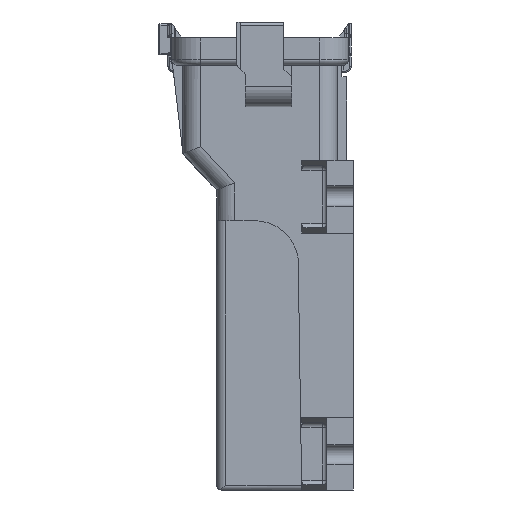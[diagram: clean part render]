
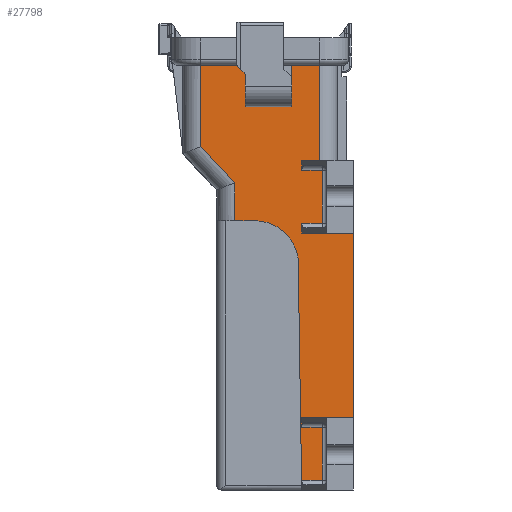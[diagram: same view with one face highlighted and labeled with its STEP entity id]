
A CAD part, left-side view. The second image highlights one B-rep face of the part: STEP entity #27798.
In plain terms, the highlighted planar face has unit normal (-1, 0, 0).
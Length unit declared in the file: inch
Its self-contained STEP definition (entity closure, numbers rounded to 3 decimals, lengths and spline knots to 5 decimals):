
#2=DIRECTION('',(0.,-1.,0.));
#3=VECTOR('',#2,0.405);
#4=CARTESIAN_POINT('',(-2.455,1.55,1.));
#5=LINE('',#4,#3);
#6=DIRECTION('',(0.,0.707,0.707));
#7=VECTOR('',#6,0.14142);
#8=CARTESIAN_POINT('',(-2.455,1.045,0.9));
#9=LINE('',#8,#7);
#10=DIRECTION('',(0.,0.,1.));
#11=VECTOR('',#10,0.37);
#12=CARTESIAN_POINT('',(-2.455,1.045,0.53));
#13=LINE('',#12,#11);
#14=DIRECTION('',(0.,1.,0.));
#15=VECTOR('',#14,0.525);
#16=CARTESIAN_POINT('',(-2.455,0.52,0.53));
#17=LINE('',#16,#15);
#18=DIRECTION('',(0.,0.,-1.));
#19=VECTOR('',#18,0.47);
#20=CARTESIAN_POINT('',(-2.455,0.52,1.));
#21=LINE('',#20,#19);
#22=DIRECTION('',(0.,-1.,0.));
#23=VECTOR('',#22,0.32);
#24=CARTESIAN_POINT('',(-2.455,0.52,1.));
#25=LINE('',#24,#23);
#26=DIRECTION('',(0.,1.,0.));
#27=VECTOR('',#26,0.205);
#28=CARTESIAN_POINT('',(-2.455,0.2,-0.08));
#29=LINE('',#28,#27);
#30=DIRECTION('',(0.,1.,0.));
#31=VECTOR('',#30,0.585);
#32=CARTESIAN_POINT('',(-2.455,-0.18,-0.9));
#33=LINE('',#32,#31);
#34=DIRECTION('',(0.,1.,0.));
#35=VECTOR('',#34,0.585);
#36=CARTESIAN_POINT('',(-2.455,-0.18,-2.99));
#37=LINE('',#36,#35);
#38=DIRECTION('',(0.,-0.015,-1.));
#39=VECTOR('',#38,2.6259);
#40=CARTESIAN_POINT('',(-2.455,0.445,-1.1844));
#41=LINE('',#40,#39);
#42=CARTESIAN_POINT('',(-2.455,0.93925,-1.26));
#43=DIRECTION('',(1.,0.,0.));
#44=DIRECTION('',(0.,0.,1.));
#45=AXIS2_PLACEMENT_3D('',#42,#43,#44);
#47=DIRECTION('',(0.,-1.,0.));
#48=VECTOR('',#47,0.22575);
#49=CARTESIAN_POINT('',(-2.455,1.165,-0.76));
#50=LINE('',#49,#48);
#12629=DIRECTION('',(0.,0.,-1.));
#12630=VECTOR('',#12629,0.92082);
#12631=CARTESIAN_POINT('',(-2.455,1.55,1.));
#12632=LINE('',#12631,#12630);
#12650=DIRECTION('',(0.,-0.685,-0.729));
#12651=VECTOR('',#12650,0.56243);
#12652=CARTESIAN_POINT('',(-2.455,1.55,0.07918));
#12653=LINE('',#12652,#12651);
#15592=DIRECTION('',(0.,0.,-1.));
#15593=VECTOR('',#15592,0.42918);
#15594=CARTESIAN_POINT('',(-2.455,1.165,-0.33082));
#15595=LINE('',#15594,#15593);
#20188=DIRECTION('',(0.,0.,-1.));
#20189=VECTOR('',#20188,2.09);
#20190=CARTESIAN_POINT('',(-2.455,-0.18,-0.9));
#20191=LINE('',#20190,#20189);
#20432=DIRECTION('',(0.,0.,1.));
#20433=VECTOR('',#20432,0.11);
#20434=CARTESIAN_POINT('',(-2.455,0.405,-0.19));
#20435=LINE('',#20434,#20433);
#20449=DIRECTION('',(0.,-1.,0.));
#20450=VECTOR('',#20449,0.235);
#20451=CARTESIAN_POINT('',(-2.455,0.405,-0.19));
#20452=LINE('',#20451,#20450);
#20470=DIRECTION('',(0.,0.,-1.));
#20471=VECTOR('',#20470,0.6);
#20472=CARTESIAN_POINT('',(-2.455,0.17,-0.19));
#20473=LINE('',#20472,#20471);
#20568=DIRECTION('',(0.,0.,1.));
#20569=VECTOR('',#20568,0.11);
#20570=CARTESIAN_POINT('',(-2.455,0.405,-0.9));
#20571=LINE('',#20570,#20569);
#20609=DIRECTION('',(0.,1.,0.));
#20610=VECTOR('',#20609,0.235);
#20611=CARTESIAN_POINT('',(-2.455,0.17,-0.79));
#20612=LINE('',#20611,#20610);
#20791=DIRECTION('',(0.,0.,1.));
#20792=VECTOR('',#20791,0.11);
#20793=CARTESIAN_POINT('',(-2.455,0.405,-3.81));
#20794=LINE('',#20793,#20792);
#20799=DIRECTION('',(0.,1.,0.));
#20800=VECTOR('',#20799,0.235);
#20801=CARTESIAN_POINT('',(-2.455,0.17,-3.7));
#20802=LINE('',#20801,#20800);
#20820=DIRECTION('',(0.,0.,-1.));
#20821=VECTOR('',#20820,0.6);
#20822=CARTESIAN_POINT('',(-2.455,0.17,-3.1));
#20823=LINE('',#20822,#20821);
#20847=DIRECTION('',(0.,-1.,0.));
#20848=VECTOR('',#20847,0.235);
#20849=CARTESIAN_POINT('',(-2.455,0.405,-3.1));
#20850=LINE('',#20849,#20848);
#20859=DIRECTION('',(0.,0.,1.));
#20860=VECTOR('',#20859,0.11);
#20861=CARTESIAN_POINT('',(-2.455,0.405,-3.1));
#20862=LINE('',#20861,#20860);
#22649=DIRECTION('',(0.,0.,1.));
#22650=VECTOR('',#22649,1.08);
#22651=CARTESIAN_POINT('',(-2.455,0.2,-0.08));
#22652=LINE('',#22651,#22650);
#22972=CARTESIAN_POINT('',(-2.455,0.93925,-0.76));
#22973=CARTESIAN_POINT('',(-2.455,0.445,-1.1844));
#22974=VERTEX_POINT('',#22972);
#22975=VERTEX_POINT('',#22973);
#23010=CARTESIAN_POINT('',(-2.455,1.165,-0.33082));
#23011=CARTESIAN_POINT('',(-2.455,1.165,-0.76));
#23012=VERTEX_POINT('',#23010);
#23013=VERTEX_POINT('',#23011);
#23014=CARTESIAN_POINT('',(-2.455,1.55,0.07918));
#23015=VERTEX_POINT('',#23014);
#23200=CARTESIAN_POINT('',(-2.455,0.2,1.));
#23202=VERTEX_POINT('',#23200);
#23208=CARTESIAN_POINT('',(-2.455,1.55,1.));
#23209=VERTEX_POINT('',#23208);
#23296=CARTESIAN_POINT('',(-2.455,0.52,1.));
#23297=CARTESIAN_POINT('',(-2.455,0.52,0.53));
#23298=VERTEX_POINT('',#23296);
#23299=VERTEX_POINT('',#23297);
#24009=CARTESIAN_POINT('',(-2.455,0.17,-0.79));
#24010=CARTESIAN_POINT('',(-2.455,0.405,-0.79));
#24011=VERTEX_POINT('',#24009);
#24012=VERTEX_POINT('',#24010);
#24025=CARTESIAN_POINT('',(-2.455,0.17,-0.19));
#24026=VERTEX_POINT('',#24025);
#24037=CARTESIAN_POINT('',(-2.455,0.405,-3.1));
#24038=CARTESIAN_POINT('',(-2.455,0.17,-3.1));
#24039=VERTEX_POINT('',#24037);
#24040=VERTEX_POINT('',#24038);
#24041=CARTESIAN_POINT('',(-2.455,0.17,-3.7));
#24042=VERTEX_POINT('',#24041);
#24265=CARTESIAN_POINT('',(-2.455,0.405,-3.81));
#24266=VERTEX_POINT('',#24265);
#24271=CARTESIAN_POINT('',(-2.455,0.2,-0.08));
#24272=CARTESIAN_POINT('',(-2.455,0.405,-0.08));
#24273=VERTEX_POINT('',#24271);
#24274=VERTEX_POINT('',#24272);
#24297=CARTESIAN_POINT('',(-2.455,0.405,-0.19));
#24298=VERTEX_POINT('',#24297);
#24299=CARTESIAN_POINT('',(-2.455,0.405,-3.7));
#24300=VERTEX_POINT('',#24299);
#25233=CARTESIAN_POINT('',(-2.455,1.045,0.53));
#25234=VERTEX_POINT('',#25233);
#25239=CARTESIAN_POINT('',(-2.455,1.045,0.9));
#25240=VERTEX_POINT('',#25239);
#25990=CARTESIAN_POINT('',(-2.455,1.145,1.));
#25992=VERTEX_POINT('',#25990);
#27713=CARTESIAN_POINT('',(-2.455,-0.18,-2.99));
#27714=CARTESIAN_POINT('',(-2.455,0.405,-2.99));
#27715=VERTEX_POINT('',#27713);
#27716=VERTEX_POINT('',#27714);
#27729=CARTESIAN_POINT('',(-2.455,-0.18,-0.9));
#27730=CARTESIAN_POINT('',(-2.455,0.405,-0.9));
#27731=VERTEX_POINT('',#27729);
#27732=VERTEX_POINT('',#27730);
#27737=CARTESIAN_POINT('',(-2.455,0.,0.));
#27738=DIRECTION('',(1.,0.,0.));
#27739=DIRECTION('',(0.,0.,-1.));
#27740=AXIS2_PLACEMENT_3D('',#27737,#27738,#27739);
#27741=PLANE('',#27740);
#27743=ORIENTED_EDGE('',*,*,#27742,.T.);
#27745=ORIENTED_EDGE('',*,*,#27744,.F.);
#27747=ORIENTED_EDGE('',*,*,#27746,.F.);
#27749=ORIENTED_EDGE('',*,*,#27748,.F.);
#27751=ORIENTED_EDGE('',*,*,#27750,.F.);
#27753=ORIENTED_EDGE('',*,*,#27752,.T.);
#27755=ORIENTED_EDGE('',*,*,#27754,.F.);
#27757=ORIENTED_EDGE('',*,*,#27756,.T.);
#27759=ORIENTED_EDGE('',*,*,#27758,.F.);
#27761=ORIENTED_EDGE('',*,*,#27760,.T.);
#27763=ORIENTED_EDGE('',*,*,#27762,.T.);
#27765=ORIENTED_EDGE('',*,*,#27764,.T.);
#27767=ORIENTED_EDGE('',*,*,#27766,.F.);
#27769=ORIENTED_EDGE('',*,*,#27768,.F.);
#27771=ORIENTED_EDGE('',*,*,#27770,.T.);
#27773=ORIENTED_EDGE('',*,*,#27772,.T.);
#27775=ORIENTED_EDGE('',*,*,#27774,.F.);
#27777=ORIENTED_EDGE('',*,*,#27776,.T.);
#27779=ORIENTED_EDGE('',*,*,#27778,.T.);
#27781=ORIENTED_EDGE('',*,*,#27780,.T.);
#27783=ORIENTED_EDGE('',*,*,#27782,.F.);
#27785=ORIENTED_EDGE('',*,*,#27784,.F.);
#27787=ORIENTED_EDGE('',*,*,#27786,.F.);
#27789=ORIENTED_EDGE('',*,*,#27788,.F.);
#27791=ORIENTED_EDGE('',*,*,#27790,.F.);
#27793=ORIENTED_EDGE('',*,*,#27792,.F.);
#27795=ORIENTED_EDGE('',*,*,#27794,.F.);
#27796=EDGE_LOOP('',(#27743,#27745,#27747,#27749,#27751,#27753,#27755,#27757,
#27759,#27761,#27763,#27765,#27767,#27769,#27771,#27773,#27775,#27777,#27779,
#27781,#27783,#27785,#27787,#27789,#27791,#27793,#27795));
#27797=FACE_OUTER_BOUND('',#27796,.F.);
#27798=ADVANCED_FACE('',(#27797),#27741,.F.);
#46=CIRCLE('',#45,0.5);
#27742=EDGE_CURVE('',#23209,#25992,#5,.T.);
#27744=EDGE_CURVE('',#25240,#25992,#9,.T.);
#27746=EDGE_CURVE('',#25234,#25240,#13,.T.);
#27748=EDGE_CURVE('',#23299,#25234,#17,.T.);
#27750=EDGE_CURVE('',#23298,#23299,#21,.T.);
#27752=EDGE_CURVE('',#23298,#23202,#25,.T.);
#27754=EDGE_CURVE('',#24273,#23202,#22652,.T.);
#27756=EDGE_CURVE('',#24273,#24274,#29,.T.);
#27758=EDGE_CURVE('',#24298,#24274,#20435,.T.);
#27760=EDGE_CURVE('',#24298,#24026,#20452,.T.);
#27762=EDGE_CURVE('',#24026,#24011,#20473,.T.);
#27764=EDGE_CURVE('',#24011,#24012,#20612,.T.);
#27766=EDGE_CURVE('',#27732,#24012,#20571,.T.);
#27768=EDGE_CURVE('',#27731,#27732,#33,.T.);
#27770=EDGE_CURVE('',#27731,#27715,#20191,.T.);
#27772=EDGE_CURVE('',#27715,#27716,#37,.T.);
#27774=EDGE_CURVE('',#24039,#27716,#20862,.T.);
#27776=EDGE_CURVE('',#24039,#24040,#20850,.T.);
#27778=EDGE_CURVE('',#24040,#24042,#20823,.T.);
#27780=EDGE_CURVE('',#24042,#24300,#20802,.T.);
#27782=EDGE_CURVE('',#24266,#24300,#20794,.T.);
#27784=EDGE_CURVE('',#22975,#24266,#41,.T.);
#27786=EDGE_CURVE('',#22974,#22975,#46,.T.);
#27788=EDGE_CURVE('',#23013,#22974,#50,.T.);
#27790=EDGE_CURVE('',#23012,#23013,#15595,.T.);
#27792=EDGE_CURVE('',#23015,#23012,#12653,.T.);
#27794=EDGE_CURVE('',#23209,#23015,#12632,.T.);
